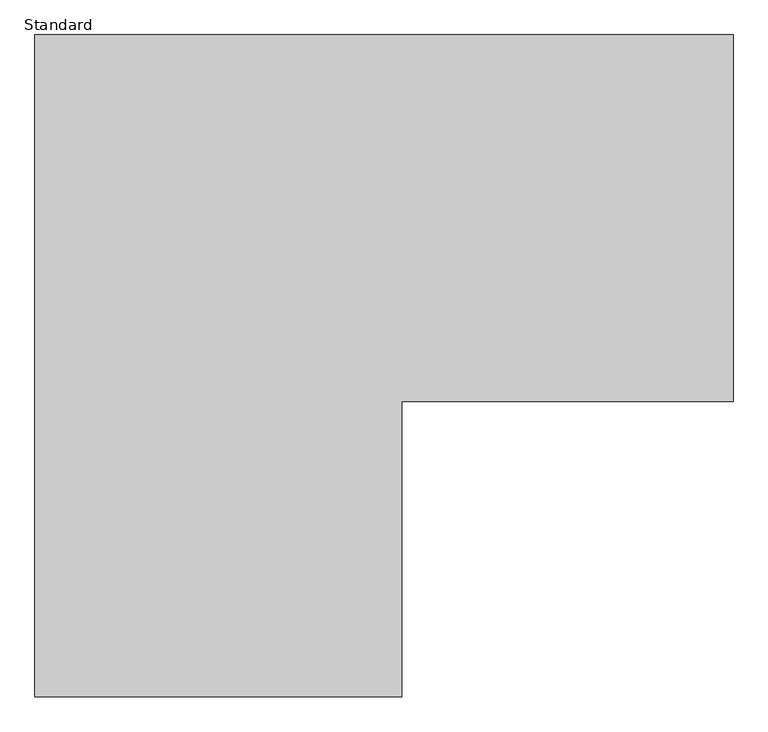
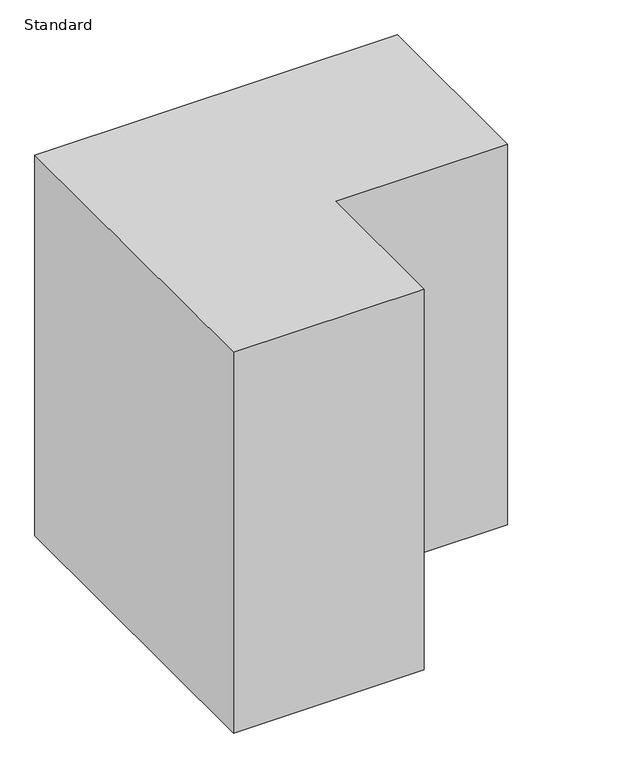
"""IFC4 building model written with IfcOpenShell, lengths in millimetres: proxy geometry, Clearance-Door-Circulation-AS1428.1-2021-Duracube : Standard."""

from ifc_helpers import new_model, si_unit, origin, origin_with_axes, place, context, project, spatial, polyline, outline, extrude, source, transform, mapped, element, save


def standard_a78aece1(model_context):
    return source(origin(), model_context, "Body", "SweptSolid", [
        extrude(outline(polyline([(-450.0, -812.5), (-450.0, 812.5), (1262.5, 812.5), (1262.5, -87.5), (450.0, -87.5), (450.0, -812.5), (-450.0, -812.5)])), origin_with_axes(), (0.0, 0.0, 1.0), 1900.0),
    ])


if __name__ == "__main__":
    model = new_model("IFC4")
    model_context = context("Model", 3, world=origin())
    ifc_project = project(units=[si_unit("LENGTHUNIT", "METRE", prefix="MILLI")], contexts=[model_context])
    site = spatial("IfcSite", under=ifc_project)
    building = spatial("IfcBuilding", under=site)
    placement = place(None, origin())
    standard_shape = standard_a78aece1(model_context)
    element("IfcBuildingElementProxy", 1, Name="Clearance-Door-Circulation-AS1428.1-2021-Duracube : Standard", ObjectType="Clearance-Door-Circulation-AS1428.1-2021-Duracube : Standard", at=placement, inside=building, context=model_context, shape_type="MappedRepresentation", body=[
        mapped(standard_shape, transform((0.0, 0.0, 0.0), x_axis=(1.0, 0.0, 0.0), y_axis=(0.0, 1.0, 0.0), z_axis=(0.0, 0.0, 1.0))),
    ])
    save(model, "model.ifc")
